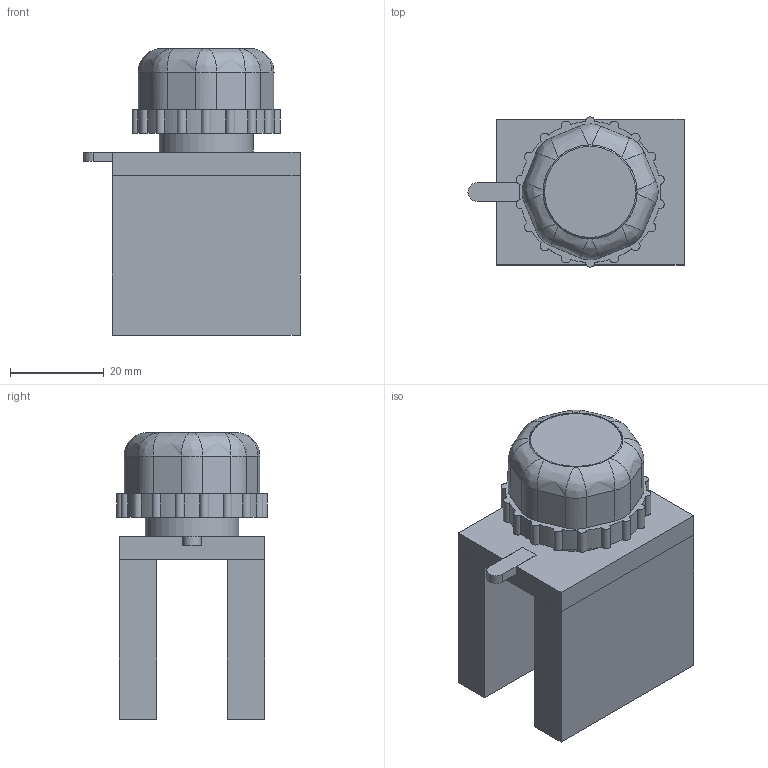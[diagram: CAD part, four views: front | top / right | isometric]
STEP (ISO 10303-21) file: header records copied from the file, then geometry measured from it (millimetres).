
FILE_DESCRIPTION(/* description */ (''),/* implementation_level */ '2;1');
FILE_NAME(/* name */ 'D:\CHINT3\NP8-BN.stp',/* time_stamp */ '2017-12-10T20:51:27+03:00',/* author */ ('RSagdiev'),/* organization */ (''),/* preprocessor_version */ 'ST-DEVELOPER v16.5',/* originating_system */ 'Autodesk Inventor 2017',/* authorisation */ '');
FILE_SCHEMA (('AUTOMOTIVE_DESIGN { 1 0 10303 214 3 1 1 }'));
Length unit declared in the file: millimetre
Products named in the file (1): NP8-BN
Bounding box: 46 x 32 x 61 mm (x, y, z)
Volume: 40674.4 mm3; surface area: 17950 mm2
Topology: 8 solids, 8 shells, 143 faces, 367 edges, 239 vertices
Faces by surface type: plane 78, cylinder 48, bspline 16, cone 1
Full cylindrical faces by diameter (mm): 20 x3
Entity records: 4747 total; most frequent: CARTESIAN_POINT 1192, ORIENTED_EDGE 724, DIRECTION 722, EDGE_CURVE 362, AXIS2_PLACEMENT_3D 248, VERTEX_POINT 238, LINE 226, VECTOR 226
